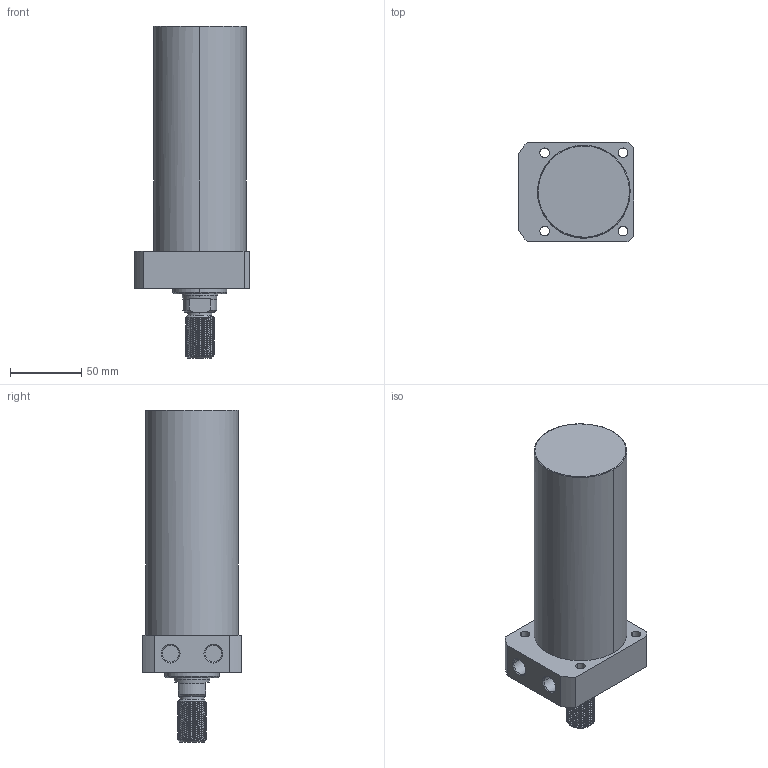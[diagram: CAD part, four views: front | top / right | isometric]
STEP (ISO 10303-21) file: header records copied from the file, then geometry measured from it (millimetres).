
FILE_DESCRIPTION((' '),'2;1');
FILE_NAME( 'TLLR-065CT-125.STEP.stp', '2025-10-24T16:35:01', (' '), ('--- Datakit www.datakit.com---'), ' Datakit CrossCadWare V2024.1 Dec 21 2023', 'Mastercam 2025', ' ');
FILE_SCHEMA(('AUTOMOTIVE_DESIGN { 1 0 10303 214 1 1 1 1 }'));
Length unit declared in the file: millimetre
Products named in the file (1): TLLR-065CT-125
Bounding box: 81 x 70 x 233 mm (x, y, z)
Volume: 680891.8 mm3; surface area: 58672.2 mm2
Topology: 1 solids, 1 shells, 105 faces, 378 edges, 283 vertices
Faces by surface type: cylinder 66, plane 20, cone 15, bspline 2, torus 2
Entity records: 11990 total; most frequent: CARTESIAN_POINT 8764, ORIENTED_EDGE 756, DIRECTION 528, EDGE_CURVE 378, VERTEX_POINT 283, AXIS2_PLACEMENT_3D 213, B_SPLINE_CURVE_WITH_KNOTS 167, EDGE_LOOP 121
